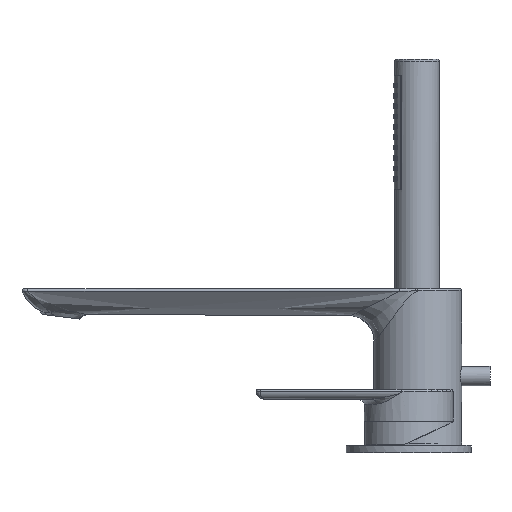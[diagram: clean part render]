
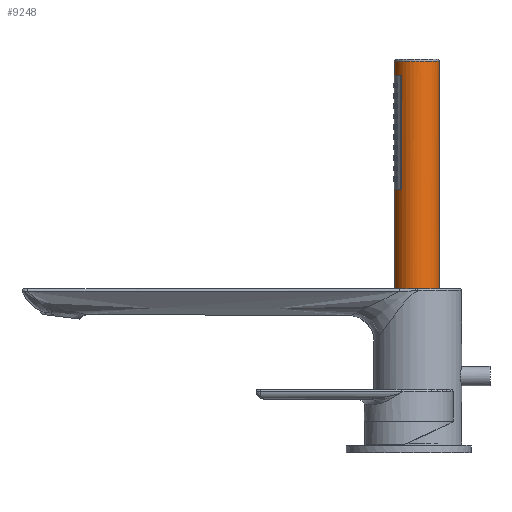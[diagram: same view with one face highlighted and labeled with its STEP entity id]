
A CAD part, left-side view. The second image highlights one B-rep face of the part: STEP entity #9248.
In plain terms, the highlighted cylindrical face has radius 11.5 mm (diameter 23 mm), a full revolution.
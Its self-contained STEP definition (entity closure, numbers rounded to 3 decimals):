
#23 = CIRCLE ( 'NONE', #969, 11.5 ) ;
#270 = DIRECTION ( 'NONE',  ( 0., 0., 1. ) ) ;
#384 = CYLINDRICAL_SURFACE ( 'NONE', #5188, 11.5 ) ;
#522 = ORIENTED_EDGE ( 'NONE', *, *, #6409, .T. ) ;
#678 = DIRECTION ( 'NONE',  ( 1., 0.025, 0. ) ) ;
#969 = AXIS2_PLACEMENT_3D ( 'NONE', #3887, #270, #6249 ) ;
#1227 = VERTEX_POINT ( 'NONE', #5399 ) ;
#1278 = AXIS2_PLACEMENT_3D ( 'NONE', #1418, #2104, #678 ) ;
#1290 = DIRECTION ( 'NONE',  ( -1., 0., 0. ) ) ;
#1365 = DIRECTION ( 'NONE',  ( 0., 0., 1. ) ) ;
#1416 = VERTEX_POINT ( 'NONE', #2527 ) ;
#1418 = CARTESIAN_POINT ( 'NONE',  ( 135.017, -82.813, 157.972 ) ) ;
#1691 = EDGE_CURVE ( 'NONE', #3033, #3033, #7854, .T. ) ;
#1991 = EDGE_CURVE ( 'NONE', #1416, #4437, #23, .T. ) ;
#2104 = DIRECTION ( 'NONE',  ( 0., 0., -1. ) ) ;
#2319 = ORIENTED_EDGE ( 'NONE', *, *, #1691, .T. ) ;
#2432 = LINE ( 'NONE', #5415, #9465 ) ;
#2527 = CARTESIAN_POINT ( 'NONE',  ( 142.962, -74.499, 150.772 ) ) ;
#2548 = VERTEX_POINT ( 'NONE', #4747 ) ;
#2593 = ORIENTED_EDGE ( 'NONE', *, *, #7227, .T. ) ;
#2631 = ORIENTED_EDGE ( 'NONE', *, *, #7897, .T. ) ;
#2826 = CARTESIAN_POINT ( 'NONE',  ( 126.667, -74.906, 92.272 ) ) ;
#3033 = VERTEX_POINT ( 'NONE', #6668 ) ;
#3081 = AXIS2_PLACEMENT_3D ( 'NONE', #8829, #1365, #1290 ) ;
#3082 = CARTESIAN_POINT ( 'NONE',  ( 126.667, -74.906, 111.972 ) ) ;
#3352 = CARTESIAN_POINT ( 'NONE',  ( 135.017, -82.813, 111.972 ) ) ;
#3887 = CARTESIAN_POINT ( 'NONE',  ( 135.017, -82.813, 150.772 ) ) ;
#4282 = VECTOR ( 'NONE', #7515, 1000. ) ;
#4352 = LINE ( 'NONE', #3082, #4282 ) ;
#4437 = VERTEX_POINT ( 'NONE', #6406 ) ;
#4747 = CARTESIAN_POINT ( 'NONE',  ( 142.962, -74.499, 92.272 ) ) ;
#4866 = FACE_OUTER_BOUND ( 'NONE', #5333, .T. ) ;
#5188 = AXIS2_PLACEMENT_3D ( 'NONE', #3352, #6360, #7928 ) ;
#5333 = EDGE_LOOP ( 'NONE', ( #2631 ) ) ;
#5399 = CARTESIAN_POINT ( 'NONE',  ( 123.517, -82.813, -25.289 ) ) ;
#5415 = CARTESIAN_POINT ( 'NONE',  ( 142.962, -74.499, 111.972 ) ) ;
#5490 = ORIENTED_EDGE ( 'NONE', *, *, #1991, .T. ) ;
#5701 = AXIS2_PLACEMENT_3D ( 'NONE', #6638, #7413, #9626 ) ;
#5830 = EDGE_LOOP ( 'NONE', ( #2319 ) ) ;
#6155 = ORIENTED_EDGE ( 'NONE', *, *, #6588, .T. ) ;
#6249 = DIRECTION ( 'NONE',  ( 1., 0.025, 0. ) ) ;
#6360 = DIRECTION ( 'NONE',  ( 0., 0., 1. ) ) ;
#6406 = CARTESIAN_POINT ( 'NONE',  ( 126.667, -74.906, 150.772 ) ) ;
#6409 = EDGE_CURVE ( 'NONE', #2548, #1416, #2432, .T. ) ;
#6588 = EDGE_CURVE ( 'NONE', #4437, #8026, #4352, .T. ) ;
#6638 = CARTESIAN_POINT ( 'NONE',  ( 135.017, -82.813, 92.272 ) ) ;
#6668 = CARTESIAN_POINT ( 'NONE',  ( 146.514, -82.526, 157.972 ) ) ;
#6958 = EDGE_LOOP ( 'NONE', ( #5490, #6155, #2593, #522 ) ) ;
#7090 = FACE_OUTER_BOUND ( 'NONE', #5830, .T. ) ;
#7183 = FACE_BOUND ( 'NONE', #6958, .T. ) ;
#7227 = EDGE_CURVE ( 'NONE', #8026, #2548, #7422, .T. ) ;
#7413 = DIRECTION ( 'NONE',  ( 0., 0., -1. ) ) ;
#7422 = CIRCLE ( 'NONE', #5701, 11.5 ) ;
#7515 = DIRECTION ( 'NONE',  ( 0., 0., -1. ) ) ;
#7854 = CIRCLE ( 'NONE', #1278, 11.5 ) ;
#7897 = EDGE_CURVE ( 'NONE', #1227, #1227, #8738, .T. ) ;
#7928 = DIRECTION ( 'NONE',  ( 1., 0.025, 0. ) ) ;
#8026 = VERTEX_POINT ( 'NONE', #2826 ) ;
#8415 = DIRECTION ( 'NONE',  ( 0., 0., 1. ) ) ;
#8738 = CIRCLE ( 'NONE', #3081, 11.5 ) ;
#8829 = CARTESIAN_POINT ( 'NONE',  ( 135.017, -82.813, -25.289 ) ) ;
#9248 = ADVANCED_FACE ( 'NONE', ( #7183, #7090, #4866 ), #384, .T. ) ;
#9465 = VECTOR ( 'NONE', #8415, 1000. ) ;
#9626 = DIRECTION ( 'NONE',  ( 1., 0.025, 0. ) ) ;
